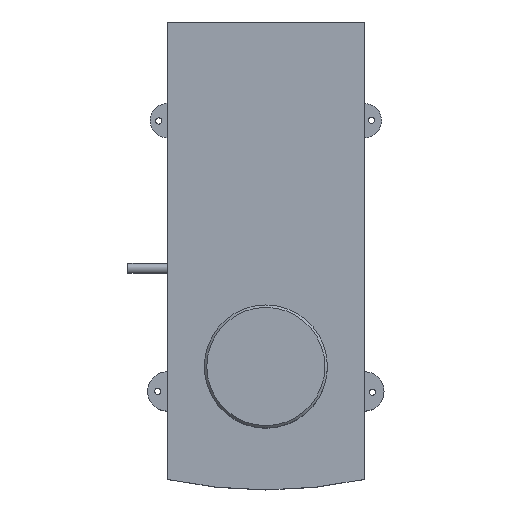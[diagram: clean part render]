
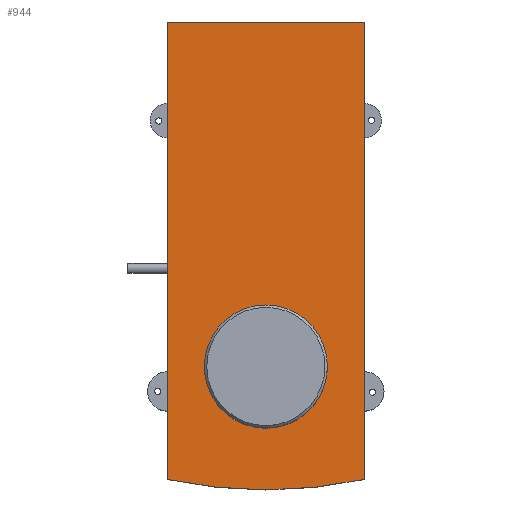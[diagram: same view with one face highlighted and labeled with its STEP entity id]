
A CAD part, top view. The second image highlights one B-rep face of the part: STEP entity #944.
In plain terms, the highlighted planar face has unit normal (0, 0, 1).
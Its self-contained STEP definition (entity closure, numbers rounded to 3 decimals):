
#46=FACE_BOUND('',#188,.T.);
#66=PLANE('',#1053);
#115=FACE_OUTER_BOUND('',#187,.T.);
#187=EDGE_LOOP('',(#827,#828,#829,#830));
#188=EDGE_LOOP('',(#831));
#241=CIRCLE('',#1046,25.);
#242=CIRCLE('',#1052,190.);
#278=LINE('',#1397,#342);
#298=LINE('',#1456,#362);
#317=LINE('',#1530,#381);
#342=VECTOR('',#1090,10.);
#362=VECTOR('',#1140,10.);
#381=VECTOR('',#1229,10.);
#410=VERTEX_POINT('',#1393);
#412=VERTEX_POINT('',#1396);
#436=VERTEX_POINT('',#1454);
#456=VERTEX_POINT('',#1529);
#467=VERTEX_POINT('',#1940);
#496=EDGE_CURVE('',#410,#412,#278,.T.);
#527=EDGE_CURVE('',#436,#410,#298,.T.);
#563=EDGE_CURVE('',#456,#412,#317,.T.);
#587=EDGE_CURVE('',#467,#467,#241,.T.);
#590=EDGE_CURVE('',#436,#456,#242,.T.);
#827=ORIENTED_EDGE('',*,*,#527,.F.);
#828=ORIENTED_EDGE('',*,*,#590,.T.);
#829=ORIENTED_EDGE('',*,*,#563,.T.);
#830=ORIENTED_EDGE('',*,*,#496,.F.);
#831=ORIENTED_EDGE('',*,*,#587,.T.);
#944=ADVANCED_FACE('',(#115,#46),#66,.T.);
#1046=AXIS2_PLACEMENT_3D('',#1942,#1274,#1275);
#1052=AXIS2_PLACEMENT_3D('',#1950,#1288,#1289);
#1053=AXIS2_PLACEMENT_3D('',#1951,#1290,#1291);
#1090=DIRECTION('',(1.,0.,0.));
#1140=DIRECTION('',(0.,1.,0.));
#1229=DIRECTION('',(0.,1.,0.));
#1274=DIRECTION('center_axis',(0.,0.,-1.));
#1275=DIRECTION('ref_axis',(-1.,0.,0.));
#1288=DIRECTION('center_axis',(0.,0.,1.));
#1289=DIRECTION('ref_axis',(1.,0.,0.));
#1290=DIRECTION('center_axis',(0.,0.,1.));
#1291=DIRECTION('ref_axis',(1.,0.,0.));
#1393=CARTESIAN_POINT('',(-40.,0.,29.));
#1396=CARTESIAN_POINT('',(40.,0.,29.));
#1397=CARTESIAN_POINT('',(-40.,0.,29.));
#1454=CARTESIAN_POINT('',(-40.,-185.742,29.));
#1456=CARTESIAN_POINT('',(-40.,-21.,29.));
#1529=CARTESIAN_POINT('',(40.,-185.742,29.));
#1530=CARTESIAN_POINT('',(40.,-20.,29.));
#1940=CARTESIAN_POINT('',(25.,-140.,29.));
#1942=CARTESIAN_POINT('Origin',(0.,-140.,29.));
#1950=CARTESIAN_POINT('Origin',(0.,0.,29.));
#1951=CARTESIAN_POINT('Origin',(0.,-105.,29.));
